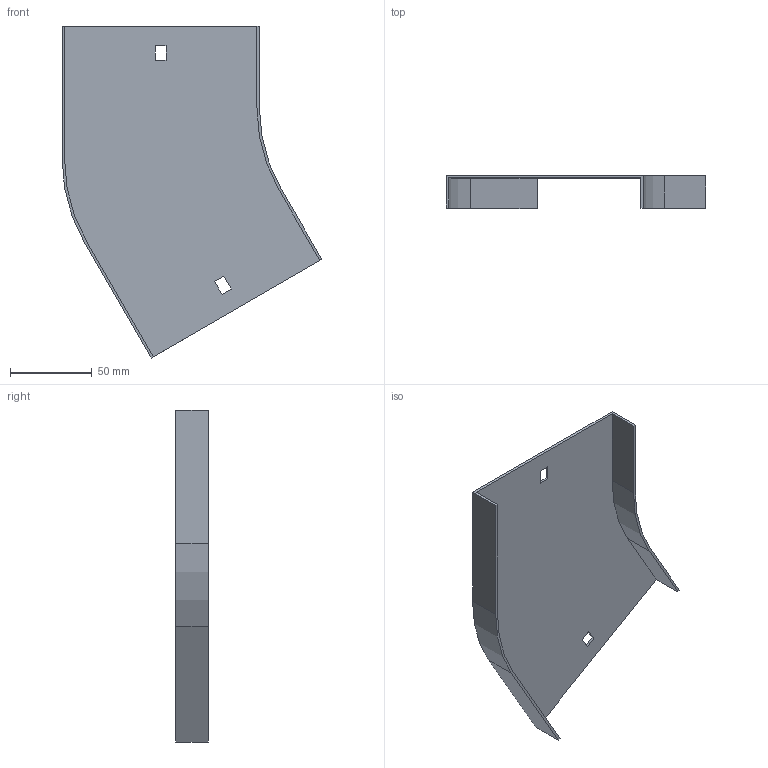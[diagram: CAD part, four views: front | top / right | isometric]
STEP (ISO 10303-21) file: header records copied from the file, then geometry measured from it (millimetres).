
FILE_DESCRIPTION (( 'STEP AP214' ), '1' );
FILE_NAME ('12N1R117.step', '2025-02-21T09:20:11', ( '' ), ( '' ), 'SwSTEP 2.0', 'SolidWorks 2023', '' );
FILE_SCHEMA (( 'AUTOMOTIVE_DESIGN' ));
Length unit declared in the file: millimetre
Products named in the file (1): 12N1R117
Bounding box: 158.7 x 20 x 202.8 mm (x, y, z)
Volume: 43474.4 mm3; surface area: 59082.9 mm2
Topology: 1 solids, 1 shells, 26 faces, 72 edges, 48 vertices
Faces by surface type: plane 22, cylinder 4
Entity records: 855 total; most frequent: CARTESIAN_POINT 147, ORIENTED_EDGE 144, DIRECTION 134, EDGE_CURVE 72, VECTOR 64, LINE 64, VERTEX_POINT 48, AXIS2_PLACEMENT_3D 35
